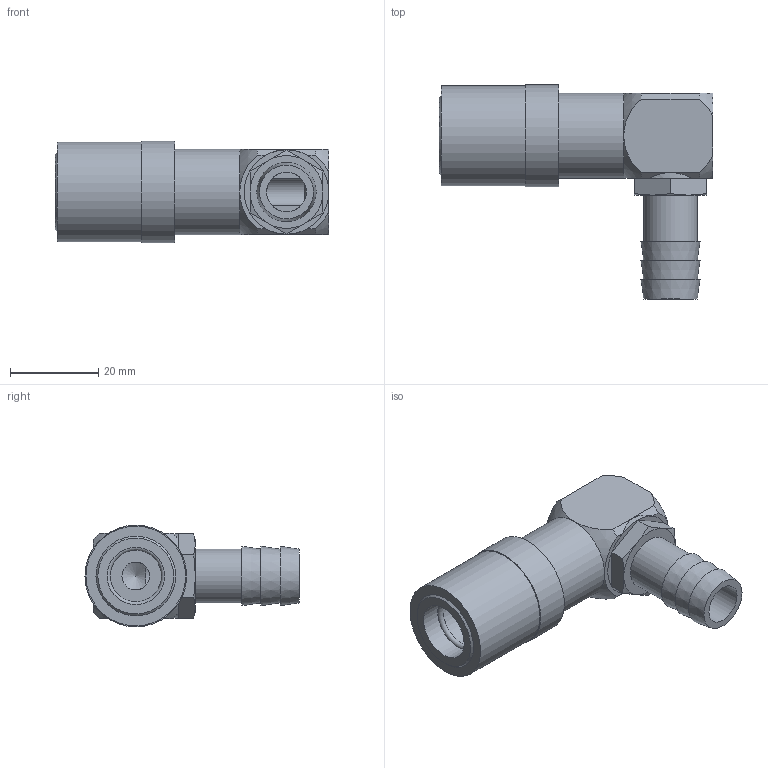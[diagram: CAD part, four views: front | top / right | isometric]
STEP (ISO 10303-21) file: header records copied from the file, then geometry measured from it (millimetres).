
FILE_DESCRIPTION( ( 'STEP AP203' ), ' ' );
FILE_NAME( 'p:/temp/worker_3/3664_3492/app_55_02015120208445087510928192d056f_000000_00_00_000000/format_0/SK211.stp', '2015-12-02T07:44:51', ( '' ), ( '' ), ' ', 'PARTsolutions', ' ' );
FILE_SCHEMA( ( 'CONFIG_CONTROL_DESIGN' ) );
Length unit declared in the file: millimetre
Products named in the file (1): _SK211
Bounding box: 62.07 x 48.53 x 23.05 mm (x, y, z)
Volume: 20856.2 mm3; surface area: 8769.9 mm2
Topology: 1 solids, 1 shells, 59 faces, 132 edges, 83 vertices
Faces by surface type: plane 29, cone 11, cylinder 10, sphere 8, torus 1
Full cylindrical faces by diameter (mm): 6.299 x1, 9 x1, 12.2 x1, 13 x2, 19.159 x1, 19.304 x1, 22.6 x1, 23.052 x1
Entity records: 1640 total; most frequent: CARTESIAN_POINT 351, DIRECTION 280, ORIENTED_EDGE 222, AXIS2_PLACEMENT_3D 126, EDGE_CURVE 111, EDGE_LOOP 83, VERTEX_POINT 79, FACE_OUTER_BOUND 68
